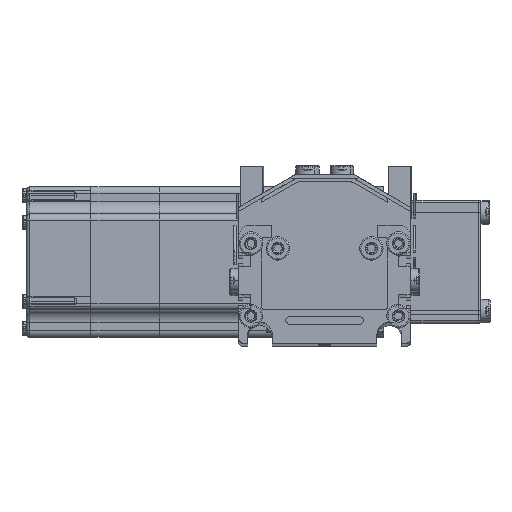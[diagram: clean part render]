
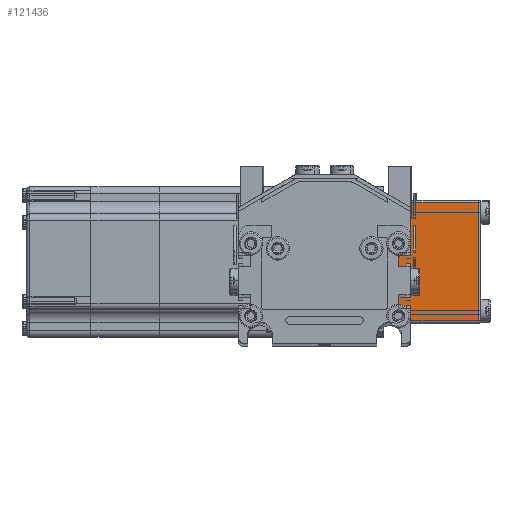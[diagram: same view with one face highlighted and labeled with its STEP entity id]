
A CAD part, top view. The second image highlights one B-rep face of the part: STEP entity #121436.
In plain terms, the highlighted planar face has unit normal (0, 0, 1) as drawn and (-1, 0, 0) by its records, which use the part's own axes.
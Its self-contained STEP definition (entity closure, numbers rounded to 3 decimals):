
#81907 = PLANE ( 'NONE',  #82138 ) ;
#81927 = DIRECTION ( 'NONE',  ( 0., 1., 0. ) ) ;
#81934 = DIRECTION ( 'NONE',  ( 1., 0., 0. ) ) ;
#81957 = CARTESIAN_POINT ( 'NONE',  ( -50., 25., 39.5 ) ) ;
#82138 = AXIS2_PLACEMENT_3D ( 'NONE', #81957, #81934, #81927 ) ;
#82382 = CARTESIAN_POINT ( 'NONE',  ( -50., -24., 0. ) ) ;
#82442 = LINE ( 'NONE', #82619, #82595 ) ;
#82526 = FACE_OUTER_BOUND ( 'NONE', #121309, .T. ) ;
#82595 = VECTOR ( 'NONE', #82617, 1000. ) ;
#82600 = CARTESIAN_POINT ( 'NONE',  ( -50., -24., 38.5 ) ) ;
#82602 = CARTESIAN_POINT ( 'NONE',  ( -50., 24., 38.5 ) ) ;
#82617 = DIRECTION ( 'NONE',  ( 0., 0., 1. ) ) ;
#82619 = CARTESIAN_POINT ( 'NONE',  ( -50., -24., 39.5 ) ) ;
#83710 = DIRECTION ( 'NONE',  ( 0., 1., 0. ) ) ;
#83713 = VECTOR ( 'NONE', #83710, 1000. ) ;
#83724 = DIRECTION ( 'NONE',  ( 0., 0., -1. ) ) ;
#83864 = CARTESIAN_POINT ( 'NONE',  ( -50., 24., 39.5 ) ) ;
#83867 = LINE ( 'NONE', #83864, #83877 ) ;
#83877 = VECTOR ( 'NONE', #83724, 1000. ) ;
#83880 = CARTESIAN_POINT ( 'NONE',  ( -50., 25., 38.5 ) ) ;
#83883 = LINE ( 'NONE', #83880, #83713 ) ;
#84081 = DIRECTION ( 'NONE',  ( 0., -1., 0. ) ) ;
#84084 = VECTOR ( 'NONE', #84081, 1000. ) ;
#84094 = CARTESIAN_POINT ( 'NONE',  ( -50., 25., 0. ) ) ;
#84097 = LINE ( 'NONE', #84094, #84084 ) ;
#84122 = CARTESIAN_POINT ( 'NONE',  ( -50., 24., 0. ) ) ;
#121200 = VERTEX_POINT ( 'NONE', #82382 ) ;
#121296 = VERTEX_POINT ( 'NONE', #82602 ) ;
#121298 = VERTEX_POINT ( 'NONE', #82600 ) ;
#121309 = EDGE_LOOP ( 'NONE', ( #121312, #121431, #121635, #121627 ) ) ;
#121312 = ORIENTED_EDGE ( 'NONE', *, *, #121455, .T. ) ;
#121321 = EDGE_CURVE ( 'NONE', #121200, #121298, #82442, .T. ) ;
#121431 = ORIENTED_EDGE ( 'NONE', *, *, #121321, .T. ) ;
#121436 = ADVANCED_FACE ( 'NONE', ( #82526 ), #81907, .F. ) ;
#121446 = VERTEX_POINT ( 'NONE', #84122 ) ;
#121455 = EDGE_CURVE ( 'NONE', #121446, #121200, #84097, .T. ) ;
#121627 = ORIENTED_EDGE ( 'NONE', *, *, #121638, .T. ) ;
#121635 = ORIENTED_EDGE ( 'NONE', *, *, #121642, .T. ) ;
#121638 = EDGE_CURVE ( 'NONE', #121296, #121446, #83867, .T. ) ;
#121642 = EDGE_CURVE ( 'NONE', #121298, #121296, #83883, .T. ) ;
